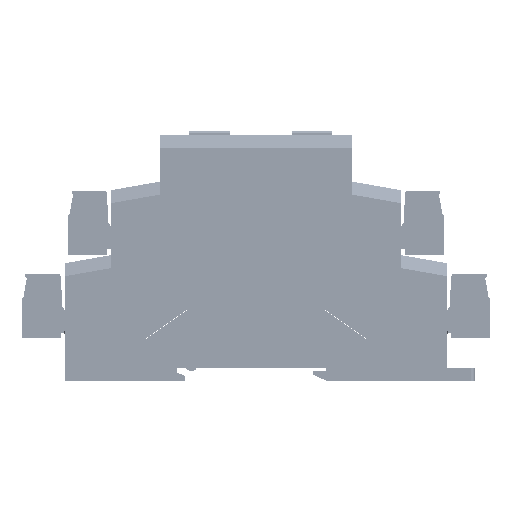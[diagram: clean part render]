
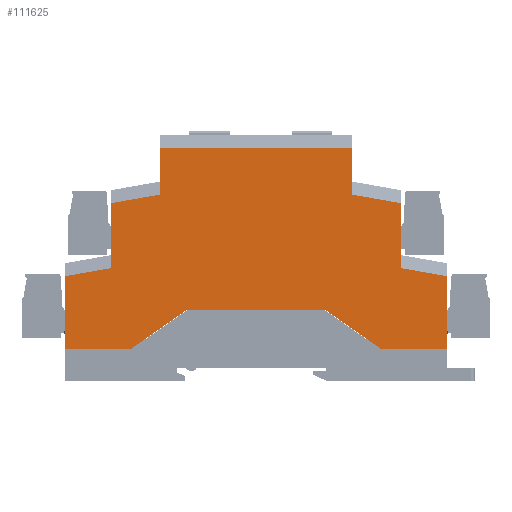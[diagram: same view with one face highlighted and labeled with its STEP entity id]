
A CAD part, left-side view. The second image highlights one B-rep face of the part: STEP entity #111625.
In plain terms, the highlighted planar face has unit normal (-1, 0, 0).
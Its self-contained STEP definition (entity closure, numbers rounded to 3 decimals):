
#172 = VERTEX_POINT ( 'NONE', #117878 ) ;
#492 = VERTEX_POINT ( 'NONE', #116924 ) ;
#2577 = CARTESIAN_POINT ( 'NONE',  ( 0., 0., 0. ) ) ;
#4888 = CARTESIAN_POINT ( 'NONE',  ( 0., 61.175, 9.15 ) ) ;
#6007 = VERTEX_POINT ( 'NONE', #196649 ) ;
#7759 = EDGE_CURVE ( 'NONE', #183423, #369289, #79352, .T. ) ;
#11893 = EDGE_LOOP ( 'NONE', ( #32158, #92544, #219498, #59326, #157175, #271650, #137248, #35556, #76082, #385328, #107050, #131871, #115819, #216082, #405066, #147872 ) ) ;
#13071 = LINE ( 'NONE', #396377, #34802 ) ;
#13426 = CARTESIAN_POINT ( 'NONE',  ( 0., 74.243, 0. ) ) ;
#30862 = CARTESIAN_POINT ( 'NONE',  ( 0., 10.85, 34.226 ) ) ;
#32158 = ORIENTED_EDGE ( 'NONE', *, *, #447500, .F. ) ;
#34802 = VECTOR ( 'NONE', #160970, 1000. ) ;
#35556 = ORIENTED_EDGE ( 'NONE', *, *, #38532, .F. ) ;
#38532 = EDGE_CURVE ( 'NONE', #166322, #112401, #150409, .T. ) ;
#44108 = CARTESIAN_POINT ( 'NONE',  ( 0., 22.35, 50.1 ) ) ;
#45524 = VECTOR ( 'NONE', #291481, 1000. ) ;
#48064 = VECTOR ( 'NONE', #444040, 1000. ) ;
#57053 = DIRECTION ( 'NONE',  ( 0., 1., 0. ) ) ;
#59326 = ORIENTED_EDGE ( 'NONE', *, *, #267559, .F. ) ;
#66472 = CARTESIAN_POINT ( 'NONE',  ( 0., 28.525, 9.15 ) ) ;
#67936 = CARTESIAN_POINT ( 'NONE',  ( 0., 78.85, 34.226 ) ) ;
#76082 = ORIENTED_EDGE ( 'NONE', *, *, #157505, .F. ) ;
#78400 = DIRECTION ( 'NONE',  ( 0., 0.985, 0.174 ) ) ;
#79352 = LINE ( 'NONE', #178712, #437837 ) ;
#82177 = CARTESIAN_POINT ( 'NONE',  ( 0., 78.85, 19.014 ) ) ;
#85710 = CARTESIAN_POINT ( 'NONE',  ( 0., 67.35, 47.1 ) ) ;
#90376 = VECTOR ( 'NONE', #331137, 1000. ) ;
#92544 = ORIENTED_EDGE ( 'NONE', *, *, #378991, .T. ) ;
#95936 = CARTESIAN_POINT ( 'NONE',  ( 0., 0., 17.101 ) ) ;
#101276 = DIRECTION ( 'NONE',  ( 0., 0.985, -0.174 ) ) ;
#102049 = VECTOR ( 'NONE', #146282, 1000. ) ;
#102283 = DIRECTION ( 'NONE',  ( 0., 0., 1. ) ) ;
#107050 = ORIENTED_EDGE ( 'NONE', *, *, #137964, .F. ) ;
#107144 = VECTOR ( 'NONE', #57053, 1000. ) ;
#110851 = DIRECTION ( 'NONE',  ( 0., 0., -1. ) ) ;
#111625 = ADVANCED_FACE ( 'NONE', ( #120724 ), #327414, .T. ) ;
#112401 = VERTEX_POINT ( 'NONE', #269230 ) ;
#112654 = CARTESIAN_POINT ( 'NONE',  ( 0., 22.35, 36.254 ) ) ;
#113506 = DIRECTION ( 'NONE',  ( 0., 0.819, 0.574 ) ) ;
#115247 = LINE ( 'NONE', #257252, #316266 ) ;
#115819 = ORIENTED_EDGE ( 'NONE', *, *, #447990, .F. ) ;
#116275 = DIRECTION ( 'NONE',  ( 0., 0., 1. ) ) ;
#116924 = CARTESIAN_POINT ( 'NONE',  ( 0., 61.175, 9.15 ) ) ;
#117878 = CARTESIAN_POINT ( 'NONE',  ( 0., 89.7, 17.101 ) ) ;
#120724 = FACE_OUTER_BOUND ( 'NONE', #11893, .T. ) ;
#125027 = VERTEX_POINT ( 'NONE', #82177 ) ;
#131871 = ORIENTED_EDGE ( 'NONE', *, *, #7759, .T. ) ;
#137248 = ORIENTED_EDGE ( 'NONE', *, *, #170226, .F. ) ;
#137964 = EDGE_CURVE ( 'NONE', #183423, #306268, #115247, .T. ) ;
#138031 = LINE ( 'NONE', #13426, #45524 ) ;
#146282 = DIRECTION ( 'NONE',  ( 0., 0., 1. ) ) ;
#147872 = ORIENTED_EDGE ( 'NONE', *, *, #155976, .T. ) ;
#150409 = LINE ( 'NONE', #265257, #107144 ) ;
#153094 = LINE ( 'NONE', #253405, #163905 ) ;
#155976 = EDGE_CURVE ( 'NONE', #392307, #166184, #13071, .T. ) ;
#157175 = ORIENTED_EDGE ( 'NONE', *, *, #327943, .F. ) ;
#157505 = EDGE_CURVE ( 'NONE', #306219, #166322, #249738, .T. ) ;
#160970 = DIRECTION ( 'NONE',  ( 0., 0.985, -0.174 ) ) ;
#163905 = VECTOR ( 'NONE', #320175, 1000. ) ;
#165732 = LINE ( 'NONE', #321266, #198479 ) ;
#166184 = VERTEX_POINT ( 'NONE', #67936 ) ;
#166322 = VERTEX_POINT ( 'NONE', #2577 ) ;
#170226 = EDGE_CURVE ( 'NONE', #112401, #364323, #445385, .T. ) ;
#174729 = VERTEX_POINT ( 'NONE', #264107 ) ;
#174973 = LINE ( 'NONE', #380723, #381569 ) ;
#178712 = CARTESIAN_POINT ( 'NONE',  ( 0., 22.871, 36.346 ) ) ;
#182711 = LINE ( 'NONE', #44108, #90376 ) ;
#183423 = VERTEX_POINT ( 'NONE', #30862 ) ;
#196649 = CARTESIAN_POINT ( 'NONE',  ( 0., 22.35, 47.1 ) ) ;
#198269 = CARTESIAN_POINT ( 'NONE',  ( 0., 67.35, 47.1 ) ) ;
#198479 = VECTOR ( 'NONE', #212011, 1000. ) ;
#205325 = CARTESIAN_POINT ( 'NONE',  ( 0., 74.243, 0. ) ) ;
#206736 = VECTOR ( 'NONE', #102283, 1000. ) ;
#207910 = EDGE_CURVE ( 'NONE', #174729, #172, #153094, .T. ) ;
#208134 = CARTESIAN_POINT ( 'NONE',  ( 0., 10.85, 19.014 ) ) ;
#212011 = DIRECTION ( 'NONE',  ( 0., 0.985, 0.174 ) ) ;
#216082 = ORIENTED_EDGE ( 'NONE', *, *, #440413, .T. ) ;
#219498 = ORIENTED_EDGE ( 'NONE', *, *, #207910, .F. ) ;
#220701 = CARTESIAN_POINT ( 'NONE',  ( 0., 74.243, 0. ) ) ;
#222695 = VERTEX_POINT ( 'NONE', #85710 ) ;
#230333 = VECTOR ( 'NONE', #391952, 1000. ) ;
#247760 = CARTESIAN_POINT ( 'NONE',  ( 0., 0., 20.147 ) ) ;
#249738 = LINE ( 'NONE', #247760, #282328 ) ;
#252177 = LINE ( 'NONE', #4888, #230333 ) ;
#253405 = CARTESIAN_POINT ( 'NONE',  ( 0., 89.7, 0. ) ) ;
#257252 = CARTESIAN_POINT ( 'NONE',  ( 0., 10.85, 37.272 ) ) ;
#259395 = CARTESIAN_POINT ( 'NONE',  ( 0., 28.525, 9.15 ) ) ;
#264107 = CARTESIAN_POINT ( 'NONE',  ( 0., 89.7, 0. ) ) ;
#265257 = CARTESIAN_POINT ( 'NONE',  ( 0., 0., 0. ) ) ;
#267559 = EDGE_CURVE ( 'NONE', #378698, #174729, #138031, .T. ) ;
#269230 = CARTESIAN_POINT ( 'NONE',  ( 0., 15.457, 0. ) ) ;
#271650 = ORIENTED_EDGE ( 'NONE', *, *, #430160, .F. ) ;
#282328 = VECTOR ( 'NONE', #110851, 1000. ) ;
#283022 = CARTESIAN_POINT ( 'NONE',  ( 0., 67.35, 39.3 ) ) ;
#291481 = DIRECTION ( 'NONE',  ( 0., 1., 0. ) ) ;
#306219 = VERTEX_POINT ( 'NONE', #95936 ) ;
#306268 = VERTEX_POINT ( 'NONE', #208134 ) ;
#316266 = VECTOR ( 'NONE', #355989, 1000. ) ;
#316914 = VECTOR ( 'NONE', #411718, 1000. ) ;
#320175 = DIRECTION ( 'NONE',  ( 0., 0., 1. ) ) ;
#320541 = AXIS2_PLACEMENT_3D ( 'NONE', #324452, #395666, #116275 ) ;
#321266 = CARTESIAN_POINT ( 'NONE',  ( 0., 11.371, 19.106 ) ) ;
#324452 = CARTESIAN_POINT ( 'NONE',  ( 0., 0., 0. ) ) ;
#327414 = PLANE ( 'NONE',  #320541 ) ;
#327943 = EDGE_CURVE ( 'NONE', #492, #378698, #398264, .T. ) ;
#331137 = DIRECTION ( 'NONE',  ( 0., 0., -1. ) ) ;
#355989 = DIRECTION ( 'NONE',  ( 0., 0., -1. ) ) ;
#364323 = VERTEX_POINT ( 'NONE', #66472 ) ;
#369289 = VERTEX_POINT ( 'NONE', #112654 ) ;
#374184 = LINE ( 'NONE', #198269, #48064 ) ;
#378698 = VERTEX_POINT ( 'NONE', #220701 ) ;
#378991 = EDGE_CURVE ( 'NONE', #125027, #172, #174973, .T. ) ;
#380723 = CARTESIAN_POINT ( 'NONE',  ( 0., 89.179, 17.192 ) ) ;
#381569 = VECTOR ( 'NONE', #101276, 1000. ) ;
#385328 = ORIENTED_EDGE ( 'NONE', *, *, #429565, .T. ) ;
#391952 = DIRECTION ( 'NONE',  ( 0., 1., 0. ) ) ;
#392307 = VERTEX_POINT ( 'NONE', #448143 ) ;
#395666 = DIRECTION ( 'NONE',  ( -1., 0., 0. ) ) ;
#396377 = CARTESIAN_POINT ( 'NONE',  ( 0., 78.329, 34.318 ) ) ;
#398264 = LINE ( 'NONE', #205325, #316914 ) ;
#405066 = ORIENTED_EDGE ( 'NONE', *, *, #447634, .F. ) ;
#411718 = DIRECTION ( 'NONE',  ( 0., 0.819, -0.574 ) ) ;
#411994 = CARTESIAN_POINT ( 'NONE',  ( 0., 78.85, 22.06 ) ) ;
#412680 = VECTOR ( 'NONE', #113506, 1000. ) ;
#413088 = LINE ( 'NONE', #411994, #206736 ) ;
#427904 = LINE ( 'NONE', #283022, #102049 ) ;
#429565 = EDGE_CURVE ( 'NONE', #306219, #306268, #165732, .T. ) ;
#430160 = EDGE_CURVE ( 'NONE', #364323, #492, #252177, .T. ) ;
#437837 = VECTOR ( 'NONE', #78400, 1000. ) ;
#440413 = EDGE_CURVE ( 'NONE', #6007, #222695, #374184, .T. ) ;
#444040 = DIRECTION ( 'NONE',  ( 0., 1., 0. ) ) ;
#445385 = LINE ( 'NONE', #259395, #412680 ) ;
#447500 = EDGE_CURVE ( 'NONE', #125027, #166184, #413088, .T. ) ;
#447634 = EDGE_CURVE ( 'NONE', #392307, #222695, #427904, .T. ) ;
#447990 = EDGE_CURVE ( 'NONE', #6007, #369289, #182711, .T. ) ;
#448143 = CARTESIAN_POINT ( 'NONE',  ( 0., 67.35, 36.254 ) ) ;
